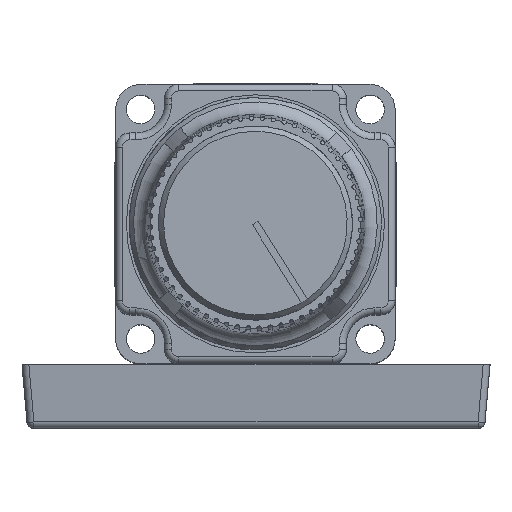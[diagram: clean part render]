
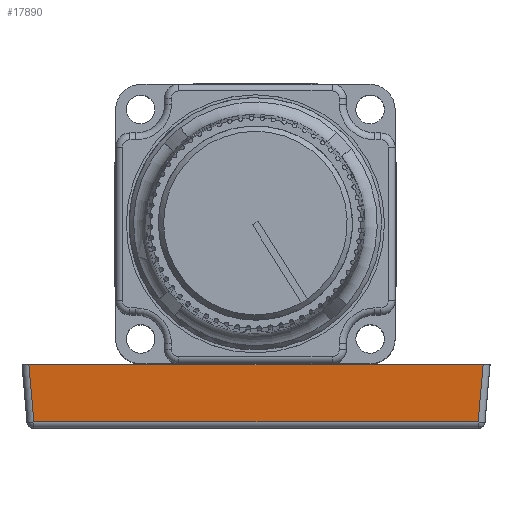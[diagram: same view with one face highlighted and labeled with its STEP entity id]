
A CAD part, top view. The second image highlights one B-rep face of the part: STEP entity #17890.
In plain terms, the highlighted planar face has unit normal (0, -0.087, 0.996).
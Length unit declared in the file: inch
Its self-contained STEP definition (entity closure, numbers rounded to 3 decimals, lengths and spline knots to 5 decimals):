
#1142=PLANE('',#19978);
#2110=FACE_OUTER_BOUND('',#3171,.T.);
#3171=EDGE_LOOP('',(#15468,#15469,#15470,#15471));
#5178=LINE('',#35376,#6382);
#5181=LINE('',#35389,#6385);
#5201=LINE('',#35537,#6405);
#5237=LINE('',#35630,#6441);
#6382=VECTOR('',#25079,0.3937);
#6385=VECTOR('',#25094,0.3937);
#6405=VECTOR('',#25194,0.3937);
#6441=VECTOR('',#25292,0.3937);
#7984=VERTEX_POINT('',#35369);
#7986=VERTEX_POINT('',#35374);
#7987=VERTEX_POINT('',#35379);
#7989=VERTEX_POINT('',#35385);
#10436=EDGE_CURVE('',#7986,#7984,#5178,.T.);
#10443=EDGE_CURVE('',#7987,#7989,#5181,.T.);
#10487=EDGE_CURVE('',#7984,#7987,#5201,.T.);
#10534=EDGE_CURVE('',#7986,#7989,#5237,.T.);
#15468=ORIENTED_EDGE('',*,*,#10436,.F.);
#15469=ORIENTED_EDGE('',*,*,#10534,.T.);
#15470=ORIENTED_EDGE('',*,*,#10443,.F.);
#15471=ORIENTED_EDGE('',*,*,#10487,.F.);
#17890=ADVANCED_FACE('',(#2110),#1142,.T.);
#19978=AXIS2_PLACEMENT_3D('',#35629,#25290,#25291);
#25079=DIRECTION('',(-0.087,-0.992,-0.087));
#25094=DIRECTION('',(-0.087,0.992,0.087));
#25194=DIRECTION('',(-1.,0.,0.));
#25290=DIRECTION('center_axis',(0.,-0.087,0.996));
#25291=DIRECTION('ref_axis',(1.,0.,0.));
#25292=DIRECTION('',(-1.,0.,0.));
#35369=CARTESIAN_POINT('',(1.87803,-0.93071,-2.11663));
#35374=CARTESIAN_POINT('',(1.89978,-0.6821,-2.09488));
#35376=CARTESIAN_POINT('',(1.89978,-0.6821,-2.09488));
#35379=CARTESIAN_POINT('',(-0.05789,-0.93071,-2.11663));
#35385=CARTESIAN_POINT('',(-0.07964,-0.6821,-2.09488));
#35389=CARTESIAN_POINT('',(-0.05789,-0.93071,-2.11663));
#35537=CARTESIAN_POINT('',(1.87803,-0.93071,-2.11663));
#35629=CARTESIAN_POINT('Origin',(0.91007,-0.68171,-2.09485));
#35630=CARTESIAN_POINT('',(1.89978,-0.6821,-2.09488));
